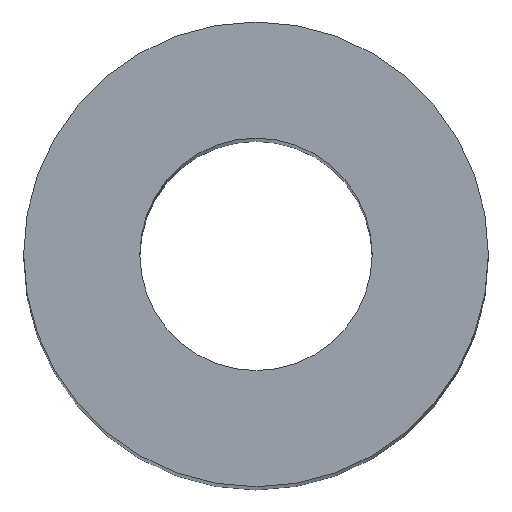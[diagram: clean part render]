
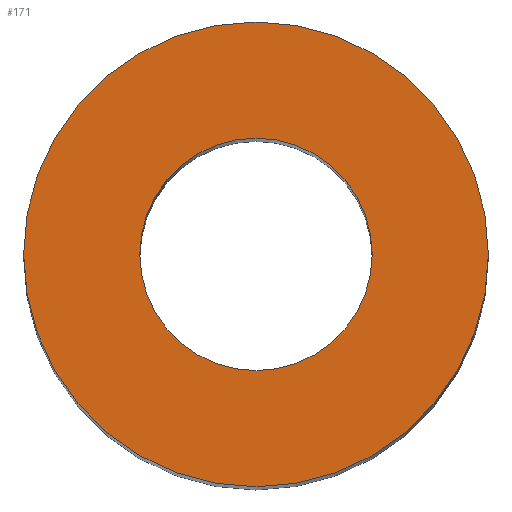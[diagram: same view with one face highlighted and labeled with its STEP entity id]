
A CAD part, top view. The second image highlights one B-rep face of the part: STEP entity #171.
In plain terms, the highlighted planar face has unit normal (0, 0, 1).
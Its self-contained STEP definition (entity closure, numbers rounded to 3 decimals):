
#2 = DIRECTION ( 'NONE',  ( 1., 0., 0. ) ) ;
#7 = EDGE_CURVE ( 'NONE', #184, #124, #144, .T. ) ;
#20 = CARTESIAN_POINT ( 'NONE',  ( 8., 0., 127. ) ) ;
#31 = PLANE ( 'NONE',  #54 ) ;
#32 = VERTEX_POINT ( 'NONE', #97 ) ;
#37 = ORIENTED_EDGE ( 'NONE', *, *, #102, .F. ) ;
#40 = CARTESIAN_POINT ( 'NONE',  ( 0., 0., 127. ) ) ;
#41 = CIRCLE ( 'NONE', #173, 16. ) ;
#42 = CARTESIAN_POINT ( 'NONE',  ( 16., 0., 127. ) ) ;
#51 = CIRCLE ( 'NONE', #143, 8. ) ;
#52 = ORIENTED_EDGE ( 'NONE', *, *, #53, .F. ) ;
#53 = EDGE_CURVE ( 'NONE', #87, #32, #51, .T. ) ;
#54 = AXIS2_PLACEMENT_3D ( 'NONE', #134, #82, #193 ) ;
#82 = DIRECTION ( 'NONE',  ( 0., 0., 1. ) ) ;
#87 = VERTEX_POINT ( 'NONE', #20 ) ;
#97 = CARTESIAN_POINT ( 'NONE',  ( -8., 0., 127. ) ) ;
#102 = EDGE_CURVE ( 'NONE', #32, #87, #106, .T. ) ;
#106 = CIRCLE ( 'NONE', #151, 8. ) ;
#114 = EDGE_LOOP ( 'NONE', ( #37, #52 ) ) ;
#124 = VERTEX_POINT ( 'NONE', #42 ) ;
#130 = ORIENTED_EDGE ( 'NONE', *, *, #159, .T. ) ;
#131 = EDGE_LOOP ( 'NONE', ( #146, #130 ) ) ;
#134 = CARTESIAN_POINT ( 'NONE',  ( 0., 0., 127. ) ) ;
#137 = CARTESIAN_POINT ( 'NONE',  ( 0., 0., 127. ) ) ;
#143 = AXIS2_PLACEMENT_3D ( 'NONE', #165, #168, #190 ) ;
#144 = CIRCLE ( 'NONE', #152, 16. ) ;
#146 = ORIENTED_EDGE ( 'NONE', *, *, #7, .T. ) ;
#147 = CARTESIAN_POINT ( 'NONE',  ( -16., 0., 127. ) ) ;
#151 = AXIS2_PLACEMENT_3D ( 'NONE', #202, #189, #153 ) ;
#152 = AXIS2_PLACEMENT_3D ( 'NONE', #137, #166, #2 ) ;
#153 = DIRECTION ( 'NONE',  ( 1., 0., 0. ) ) ;
#159 = EDGE_CURVE ( 'NONE', #124, #184, #41, .T. ) ;
#163 = DIRECTION ( 'NONE',  ( 1., 0., 0. ) ) ;
#165 = CARTESIAN_POINT ( 'NONE',  ( 0., 0., 127. ) ) ;
#166 = DIRECTION ( 'NONE',  ( 0., 0., 1. ) ) ;
#168 = DIRECTION ( 'NONE',  ( 0., 0., 1. ) ) ;
#171 = ADVANCED_FACE ( 'NONE', ( #196, #205 ), #31, .T. ) ;
#173 = AXIS2_PLACEMENT_3D ( 'NONE', #40, #191, #163 ) ;
#184 = VERTEX_POINT ( 'NONE', #147 ) ;
#189 = DIRECTION ( 'NONE',  ( 0., 0., 1. ) ) ;
#190 = DIRECTION ( 'NONE',  ( 1., 0., 0. ) ) ;
#191 = DIRECTION ( 'NONE',  ( 0., 0., 1. ) ) ;
#193 = DIRECTION ( 'NONE',  ( 1., 0., 0. ) ) ;
#196 = FACE_OUTER_BOUND ( 'NONE', #131, .T. ) ;
#202 = CARTESIAN_POINT ( 'NONE',  ( 0., 0., 127. ) ) ;
#205 = FACE_BOUND ( 'NONE', #114, .T. ) ;
